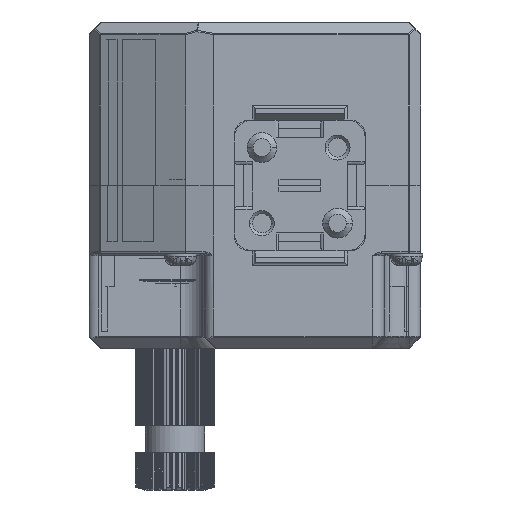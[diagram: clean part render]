
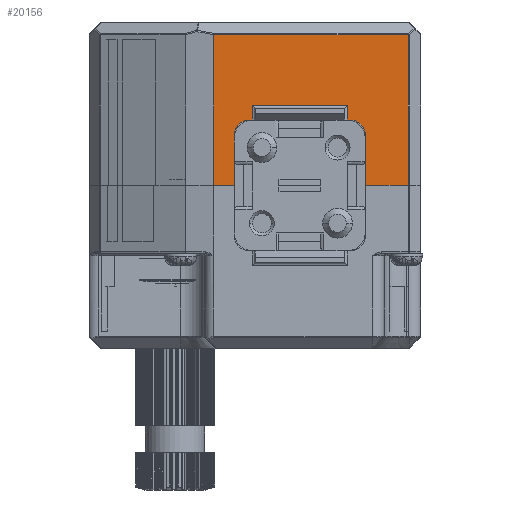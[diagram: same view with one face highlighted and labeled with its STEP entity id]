
A CAD part, front view. The second image highlights one B-rep face of the part: STEP entity #20156.
In plain terms, the highlighted planar face has unit normal (0, -1, 0).
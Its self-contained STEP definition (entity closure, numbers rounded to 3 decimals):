
#674 = DIRECTION ( 'NONE',  ( 0., 0., 1. ) ) ;
#868 = LINE ( 'NONE', #81627, #17422 ) ;
#4462 = CARTESIAN_POINT ( 'NONE',  ( 362.098, 871.685, -363.196 ) ) ;
#6249 = CARTESIAN_POINT ( 'NONE',  ( 384.119, 871.684, -363.196 ) ) ;
#7583 = VERTEX_POINT ( 'NONE', #70131 ) ;
#8686 = VERTEX_POINT ( 'NONE', #6249 ) ;
#9472 = DIRECTION ( 'NONE',  ( 0., 0., -1. ) ) ;
#10362 = VECTOR ( 'NONE', #9472, 1000. ) ;
#10868 = EDGE_CURVE ( 'NONE', #11287, #98862, #48531, .T. ) ;
#10907 = EDGE_CURVE ( 'NONE', #7583, #11287, #37129, .T. ) ;
#11287 = VERTEX_POINT ( 'NONE', #81889 ) ;
#11288 = CARTESIAN_POINT ( 'NONE',  ( 384.619, 871.684, -349.696 ) ) ;
#11603 = LINE ( 'NONE', #52712, #95721 ) ;
#12508 = EDGE_CURVE ( 'NONE', #38082, #44255, #11603, .T. ) ;
#13126 = FACE_BOUND ( 'NONE', #87409, .T. ) ;
#17422 = VECTOR ( 'NONE', #58104, 1000. ) ;
#17988 = ORIENTED_EDGE ( 'NONE', *, *, #67602, .F. ) ;
#20156 = ADVANCED_FACE ( 'NONE', ( #13126, #64098 ), #54302, .F. ) ;
#22520 = ORIENTED_EDGE ( 'NONE', *, *, #73285, .F. ) ;
#23163 = LINE ( 'NONE', #77122, #24387 ) ;
#24387 = VECTOR ( 'NONE', #53232, 1000. ) ;
#25587 = CARTESIAN_POINT ( 'NONE',  ( 384.619, 871.684, -363.196 ) ) ;
#26180 = CARTESIAN_POINT ( 'NONE',  ( 396.969, 871.684, -337.82 ) ) ;
#29429 = CIRCLE ( 'NONE', #35042, 7.5 ) ;
#30045 = CARTESIAN_POINT ( 'NONE',  ( 368.619, 871.685, -349.696 ) ) ;
#30297 = ORIENTED_EDGE ( 'NONE', *, *, #10868, .F. ) ;
#30409 = DIRECTION ( 'NONE',  ( 1., 0., 0. ) ) ;
#30435 = CARTESIAN_POINT ( 'NONE',  ( 396.969, 871.684, -363.196 ) ) ;
#31353 = CARTESIAN_POINT ( 'NONE',  ( 369.119, 871.685, -363.196 ) ) ;
#34807 = ORIENTED_EDGE ( 'NONE', *, *, #62132, .F. ) ;
#35042 = AXIS2_PLACEMENT_3D ( 'NONE', #94915, #38621, #30409 ) ;
#36573 = VERTEX_POINT ( 'NONE', #30045 ) ;
#37129 = LINE ( 'NONE', #26180, #72741 ) ;
#37931 = EDGE_CURVE ( 'NONE', #36573, #38082, #47610, .T. ) ;
#38082 = VERTEX_POINT ( 'NONE', #98912 ) ;
#38621 = DIRECTION ( 'NONE',  ( 0., -1., 0. ) ) ;
#39583 = EDGE_CURVE ( 'NONE', #98862, #8686, #23163, .T. ) ;
#39606 = VERTEX_POINT ( 'NONE', #4462 ) ;
#40646 = VECTOR ( 'NONE', #674, 1000. ) ;
#44255 = VERTEX_POINT ( 'NONE', #104518 ) ;
#44982 = EDGE_CURVE ( 'NONE', #100617, #36573, #868, .T. ) ;
#45375 = ORIENTED_EDGE ( 'NONE', *, *, #44982, .F. ) ;
#46444 = DIRECTION ( 'NONE',  ( -1., 0., 0. ) ) ;
#47610 = LINE ( 'NONE', #49014, #76988 ) ;
#48531 = LINE ( 'NONE', #65732, #10362 ) ;
#48990 = DIRECTION ( 'NONE',  ( 1., 0., 0. ) ) ;
#49014 = CARTESIAN_POINT ( 'NONE',  ( 368.619, 871.685, -363.196 ) ) ;
#52712 = CARTESIAN_POINT ( 'NONE',  ( 396.969, 871.684, -352.196 ) ) ;
#53232 = DIRECTION ( 'NONE',  ( -1., 0., 0. ) ) ;
#54302 = PLANE ( 'NONE',  #100059 ) ;
#56288 = CARTESIAN_POINT ( 'NONE',  ( 394.845, 871.684, -363.196 ) ) ;
#58104 = DIRECTION ( 'NONE',  ( -1., 0., 0. ) ) ;
#62132 = EDGE_CURVE ( 'NONE', #39606, #7583, #97474, .T. ) ;
#62477 = CARTESIAN_POINT ( 'NONE',  ( 396.969, 871.684, -363.196 ) ) ;
#62486 = DIRECTION ( 'NONE',  ( -1., 0., 0. ) ) ;
#62758 = CARTESIAN_POINT ( 'NONE',  ( 362.098, 871.685, -363.196 ) ) ;
#64011 = ORIENTED_EDGE ( 'NONE', *, *, #37931, .F. ) ;
#64098 = FACE_OUTER_BOUND ( 'NONE', #89775, .T. ) ;
#65732 = CARTESIAN_POINT ( 'NONE',  ( 394.845, 871.684, -363.196 ) ) ;
#67602 = EDGE_CURVE ( 'NONE', #44255, #100617, #95471, .T. ) ;
#70131 = CARTESIAN_POINT ( 'NONE',  ( 362.098, 871.685, -337.82 ) ) ;
#70675 = DIRECTION ( 'NONE',  ( 0., 1., 0. ) ) ;
#72741 = VECTOR ( 'NONE', #48990, 1000. ) ;
#72866 = DIRECTION ( 'NONE',  ( 0., 0., -1. ) ) ;
#73176 = VECTOR ( 'NONE', #86636, 1000. ) ;
#73285 = EDGE_CURVE ( 'NONE', #8686, #73790, #29429, .T. ) ;
#73790 = VERTEX_POINT ( 'NONE', #31353 ) ;
#76549 = ORIENTED_EDGE ( 'NONE', *, *, #10907, .F. ) ;
#76988 = VECTOR ( 'NONE', #72866, 1000. ) ;
#77122 = CARTESIAN_POINT ( 'NONE',  ( 396.969, 871.684, -363.196 ) ) ;
#77637 = DIRECTION ( 'NONE',  ( 1., 0., 0. ) ) ;
#80390 = EDGE_CURVE ( 'NONE', #73790, #39606, #82213, .T. ) ;
#81627 = CARTESIAN_POINT ( 'NONE',  ( 396.969, 871.684, -349.696 ) ) ;
#81889 = CARTESIAN_POINT ( 'NONE',  ( 394.845, 871.684, -337.82 ) ) ;
#82213 = LINE ( 'NONE', #30435, #89836 ) ;
#83800 = ORIENTED_EDGE ( 'NONE', *, *, #80390, .F. ) ;
#86636 = DIRECTION ( 'NONE',  ( 0., 0., 1. ) ) ;
#87409 = EDGE_LOOP ( 'NONE', ( #101484, #64011, #45375, #17988 ) ) ;
#89775 = EDGE_LOOP ( 'NONE', ( #30297, #76549, #34807, #83800, #22520, #100875 ) ) ;
#89836 = VECTOR ( 'NONE', #62486, 1000. ) ;
#94915 = CARTESIAN_POINT ( 'NONE',  ( 376.619, 871.685, -363.196 ) ) ;
#95471 = LINE ( 'NONE', #25587, #40646 ) ;
#95721 = VECTOR ( 'NONE', #77637, 1000. ) ;
#97474 = LINE ( 'NONE', #62758, #73176 ) ;
#98862 = VERTEX_POINT ( 'NONE', #56288 ) ;
#98912 = CARTESIAN_POINT ( 'NONE',  ( 368.619, 871.685, -352.196 ) ) ;
#100059 = AXIS2_PLACEMENT_3D ( 'NONE', #62477, #70675, #46444 ) ;
#100617 = VERTEX_POINT ( 'NONE', #11288 ) ;
#100875 = ORIENTED_EDGE ( 'NONE', *, *, #39583, .F. ) ;
#101484 = ORIENTED_EDGE ( 'NONE', *, *, #12508, .F. ) ;
#104518 = CARTESIAN_POINT ( 'NONE',  ( 384.619, 871.684, -352.196 ) ) ;
